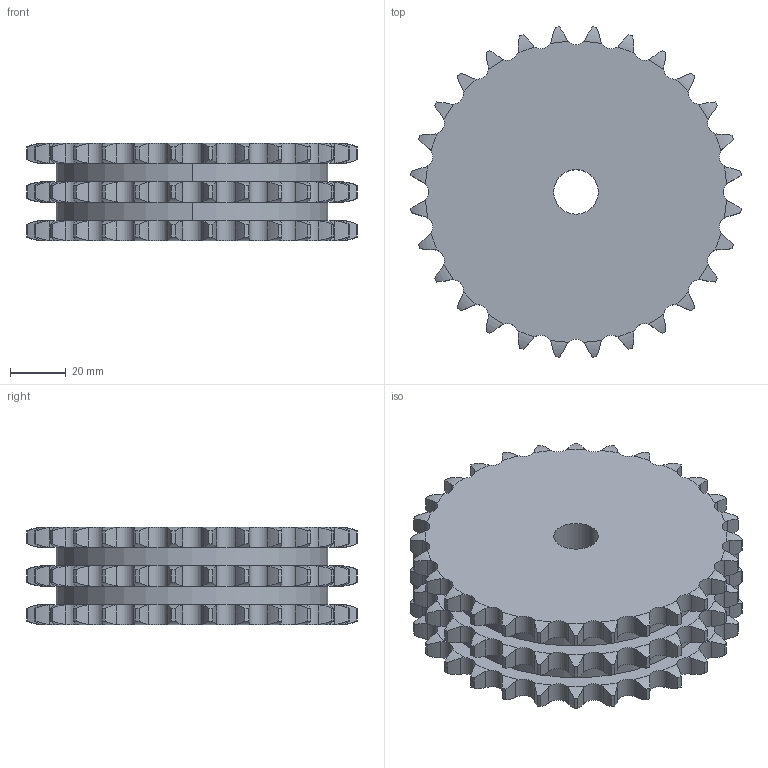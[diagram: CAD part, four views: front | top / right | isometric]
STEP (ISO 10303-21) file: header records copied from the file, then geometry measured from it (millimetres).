
FILE_DESCRIPTION((''),'2;1');
FILE_NAME('500-203-0028_PRT','2021-02-12T',('Brieden'),('Brieden'),'PRO/ENGINEER BY PARAMETRIC TECHNOLOGY CORPORATION, 2010160','PRO/ENGINEER BY PARAMETRIC TECHNOLOGY CORPORATION, 2010160','');
FILE_SCHEMA(('AUTOMOTIVE_DESIGN { 1 0 10303 214 1 1 1 1 }'));
Length unit declared in the file: millimetre
Products named in the file (1): 500-203-0028_PRT
Bounding box: 118.51 x 118.51 x 34.9 mm (x, y, z)
Volume: 299619.8 mm3; surface area: 44541.1 mm2
Topology: 1 solids, 1 shells, 516 faces, 1530 edges, 1020 vertices
Faces by surface type: cylinder 342, torus 168, plane 6
Entity records: 24678 total; most frequent: CARTESIAN_POINT 7017, ORIENTED_EDGE 3060, DIRECTION 2406, PRESENTATION_STYLE_ASSIGNMENT 1531, STYLED_ITEM 1531, CURVE_STYLE 1530, EDGE_CURVE 1530, AXIS2_PLACEMENT_3D 1032
